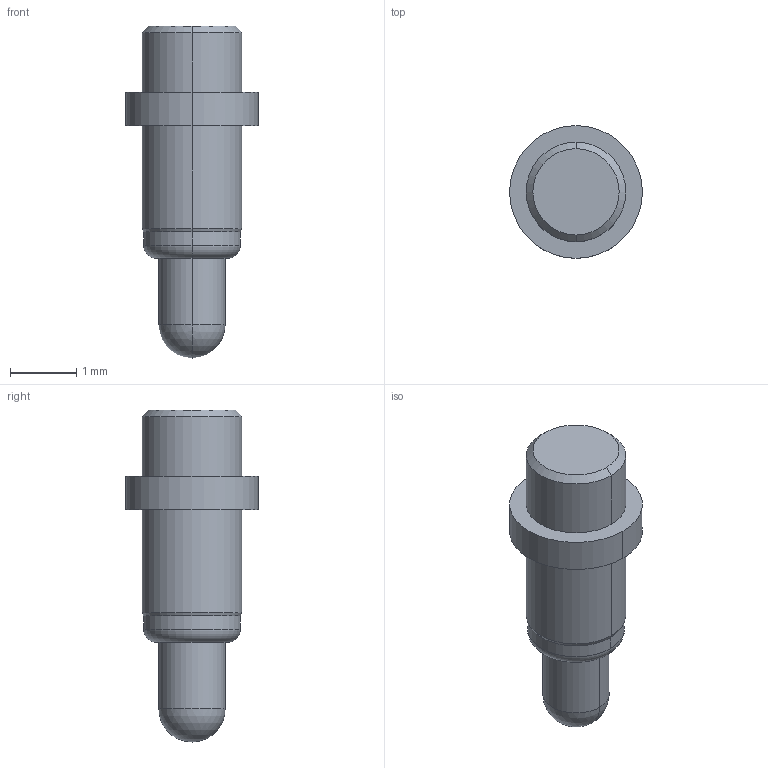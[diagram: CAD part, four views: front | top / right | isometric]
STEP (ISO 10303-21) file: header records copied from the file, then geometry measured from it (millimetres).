
FILE_DESCRIPTION((''),'2;1');
FILE_NAME('PRT0003','2023-05-26T10:29:26',('USER'),(''),'CREO PARAMETRIC BY PTC INC, 2020154','CREO PARAMETRIC BY PTC INC, 2020154','');
FILE_SCHEMA(('CONFIG_CONTROL_DESIGN'));
Length unit declared in the file: millimetre
Products named in the file (1): PRT0003
Bounding box: 2 x 2 x 5 mm (x, y, z)
Volume: 7.8 mm3; surface area: 26.7 mm2
Topology: 1 solids, 1 shells, 22 faces, 44 edges, 25 vertices
Faces by surface type: cylinder 10, plane 4, cone 4, torus 2, sphere 2
Entity records: 600 total; most frequent: DIRECTION 114, CARTESIAN_POINT 89, ORIENTED_EDGE 84, AXIS2_PLACEMENT_3D 50, EDGE_CURVE 42, CIRCLE 28, VERTEX_POINT 25, EDGE_LOOP 25
